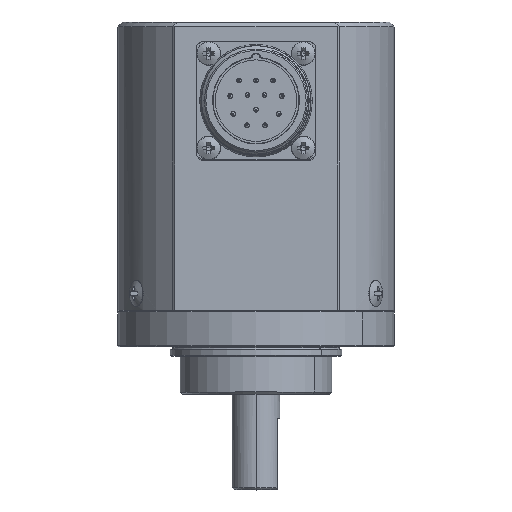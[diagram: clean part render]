
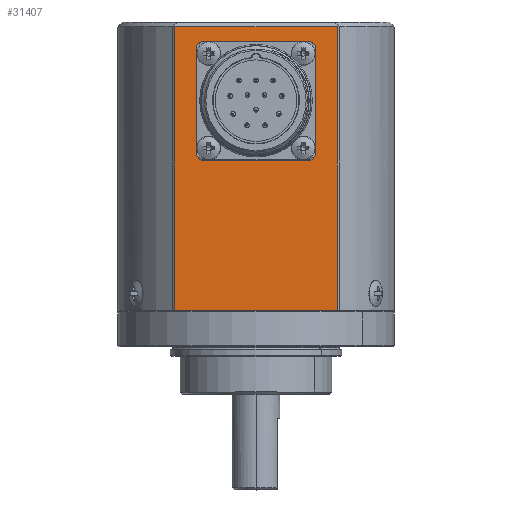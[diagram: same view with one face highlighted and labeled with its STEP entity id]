
A CAD part, top view. The second image highlights one B-rep face of the part: STEP entity #31407.
In plain terms, the highlighted planar face has unit normal (0, 0, 1).
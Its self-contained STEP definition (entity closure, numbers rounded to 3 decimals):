
#126 = VERTEX_POINT ( 'NONE', #9088 ) ;
#660 = VERTEX_POINT ( 'NONE', #20117 ) ;
#4308 = EDGE_CURVE ( 'NONE', #32777, #660, #37528, .T. ) ;
#4770 = EDGE_CURVE ( 'NONE', #36034, #10123, #19191, .T. ) ;
#4811 = VECTOR ( 'NONE', #14649, 1000. ) ;
#5285 = DIRECTION ( 'NONE',  ( 1., 0., 0. ) ) ;
#5620 = CARTESIAN_POINT ( 'NONE',  ( -11.459, 39.1, 32. ) ) ;
#6011 = EDGE_CURVE ( 'NONE', #10584, #23390, #11494, .T. ) ;
#6250 = CARTESIAN_POINT ( 'NONE',  ( 12.4, 62.959, 32. ) ) ;
#6368 = VECTOR ( 'NONE', #19324, 1000. ) ;
#6473 = ORIENTED_EDGE ( 'NONE', *, *, #35060, .T. ) ;
#6692 = EDGE_CURVE ( 'NONE', #9476, #126, #14846, .T. ) ;
#6695 = CARTESIAN_POINT ( 'NONE',  ( 11.459, 39.1, 32. ) ) ;
#7102 = ORIENTED_EDGE ( 'NONE', *, *, #19804, .T. ) ;
#7328 = ORIENTED_EDGE ( 'NONE', *, *, #37574, .T. ) ;
#8011 = CARTESIAN_POINT ( 'NONE',  ( -17.5, 7.5, 32. ) ) ;
#9088 = CARTESIAN_POINT ( 'NONE',  ( 11.459, 39.1, 32. ) ) ;
#9476 = VERTEX_POINT ( 'NONE', #22164 ) ;
#9800 = LINE ( 'NONE', #6695, #27782 ) ;
#10123 = VERTEX_POINT ( 'NONE', #33485 ) ;
#10449 = DIRECTION ( 'NONE',  ( 0., 1., 0. ) ) ;
#10584 = VERTEX_POINT ( 'NONE', #37525 ) ;
#10851 = CARTESIAN_POINT ( 'NONE',  ( -12.4, 40.041, 32. ) ) ;
#11173 = VECTOR ( 'NONE', #22350, 1000. ) ;
#11291 = FACE_BOUND ( 'NONE', #27888, .T. ) ;
#11446 = VERTEX_POINT ( 'NONE', #34984 ) ;
#11494 = LINE ( 'NONE', #14787, #13983 ) ;
#11740 = LINE ( 'NONE', #31099, #19397 ) ;
#13983 = VECTOR ( 'NONE', #23710, 1000. ) ;
#14587 = FACE_OUTER_BOUND ( 'NONE', #21143, .T. ) ;
#14649 = DIRECTION ( 'NONE',  ( -0.707, -0.707, 0. ) ) ;
#14787 = CARTESIAN_POINT ( 'NONE',  ( 11.459, 63.9, 32. ) ) ;
#14846 = LINE ( 'NONE', #19942, #4811 ) ;
#15434 = DIRECTION ( 'NONE',  ( -0.707, 0.707, 0. ) ) ;
#16343 = VERTEX_POINT ( 'NONE', #25536 ) ;
#17226 = VECTOR ( 'NONE', #18179, 1000. ) ;
#17432 = ORIENTED_EDGE ( 'NONE', *, *, #4770, .T. ) ;
#18018 = DIRECTION ( 'NONE',  ( 0.707, 0.707, 0. ) ) ;
#18179 = DIRECTION ( 'NONE',  ( 0., 1., 0. ) ) ;
#18415 = LINE ( 'NONE', #28049, #24803 ) ;
#19191 = LINE ( 'NONE', #40791, #27120 ) ;
#19324 = DIRECTION ( 'NONE',  ( 0., -1., 0. ) ) ;
#19397 = VECTOR ( 'NONE', #40412, 1000. ) ;
#19804 = EDGE_CURVE ( 'NONE', #16343, #10584, #37215, .T. ) ;
#19942 = CARTESIAN_POINT ( 'NONE',  ( 12.4, 40.041, 32. ) ) ;
#20117 = CARTESIAN_POINT ( 'NONE',  ( 17., 67., 32. ) ) ;
#21143 = EDGE_LOOP ( 'NONE', ( #37172, #26217, #25001, #39138 ) ) ;
#22035 = EDGE_CURVE ( 'NONE', #126, #36034, #9800, .T. ) ;
#22164 = CARTESIAN_POINT ( 'NONE',  ( 12.4, 40.041, 32. ) ) ;
#22350 = DIRECTION ( 'NONE',  ( 1., 0., 0. ) ) ;
#23245 = EDGE_CURVE ( 'NONE', #11446, #32777, #23809, .T. ) ;
#23390 = VERTEX_POINT ( 'NONE', #27683 ) ;
#23679 = LINE ( 'NONE', #10851, #32544 ) ;
#23710 = DIRECTION ( 'NONE',  ( 0.707, -0.707, 0. ) ) ;
#23809 = LINE ( 'NONE', #33057, #31721 ) ;
#24803 = VECTOR ( 'NONE', #18018, 1000. ) ;
#24887 = DIRECTION ( 'NONE',  ( -1., 0., 0. ) ) ;
#25001 = ORIENTED_EDGE ( 'NONE', *, *, #4308, .T. ) ;
#25536 = CARTESIAN_POINT ( 'NONE',  ( -11.459, 63.9, 32. ) ) ;
#26217 = ORIENTED_EDGE ( 'NONE', *, *, #23245, .T. ) ;
#26592 = CARTESIAN_POINT ( 'NONE',  ( -12.4, 62.959, 32. ) ) ;
#27092 = VERTEX_POINT ( 'NONE', #26592 ) ;
#27120 = VECTOR ( 'NONE', #15434, 1000. ) ;
#27196 = DIRECTION ( 'NONE',  ( 0., 0., 1. ) ) ;
#27683 = CARTESIAN_POINT ( 'NONE',  ( 12.4, 62.959, 32. ) ) ;
#27782 = VECTOR ( 'NONE', #24887, 1000. ) ;
#27855 = CARTESIAN_POINT ( 'NONE',  ( 17., 7.6, 32. ) ) ;
#27888 = EDGE_LOOP ( 'NONE', ( #33520, #29997, #17432, #6473, #38419, #7102, #32882, #7328 ) ) ;
#28049 = CARTESIAN_POINT ( 'NONE',  ( -12.4, 62.959, 32. ) ) ;
#29468 = EDGE_CURVE ( 'NONE', #660, #34920, #11740, .T. ) ;
#29917 = CARTESIAN_POINT ( 'NONE',  ( -17., 67., 32. ) ) ;
#29997 = ORIENTED_EDGE ( 'NONE', *, *, #22035, .T. ) ;
#30043 = LINE ( 'NONE', #36490, #35623 ) ;
#31099 = CARTESIAN_POINT ( 'NONE',  ( -17., 67., 32. ) ) ;
#31407 = ADVANCED_FACE ( 'NONE', ( #14587, #11291 ), #32960, .T. ) ;
#31721 = VECTOR ( 'NONE', #36405, 1000. ) ;
#32544 = VECTOR ( 'NONE', #10449, 1000. ) ;
#32705 = AXIS2_PLACEMENT_3D ( 'NONE', #8011, #27196, #5285 ) ;
#32777 = VERTEX_POINT ( 'NONE', #27855 ) ;
#32882 = ORIENTED_EDGE ( 'NONE', *, *, #6011, .T. ) ;
#32960 = PLANE ( 'NONE',  #32705 ) ;
#33057 = CARTESIAN_POINT ( 'NONE',  ( 17., 7.6, 32. ) ) ;
#33485 = CARTESIAN_POINT ( 'NONE',  ( -12.4, 40.041, 32. ) ) ;
#33520 = ORIENTED_EDGE ( 'NONE', *, *, #6692, .T. ) ;
#34217 = CARTESIAN_POINT ( 'NONE',  ( 17., 7.5, 32. ) ) ;
#34555 = LINE ( 'NONE', #6250, #6368 ) ;
#34920 = VERTEX_POINT ( 'NONE', #29917 ) ;
#34984 = CARTESIAN_POINT ( 'NONE',  ( -17., 7.6, 32. ) ) ;
#35060 = EDGE_CURVE ( 'NONE', #10123, #27092, #23679, .T. ) ;
#35623 = VECTOR ( 'NONE', #39569, 1000. ) ;
#36034 = VERTEX_POINT ( 'NONE', #5620 ) ;
#36405 = DIRECTION ( 'NONE',  ( 1., 0., 0. ) ) ;
#36490 = CARTESIAN_POINT ( 'NONE',  ( -17., 7.5, 32. ) ) ;
#36900 = EDGE_CURVE ( 'NONE', #27092, #16343, #18415, .T. ) ;
#37172 = ORIENTED_EDGE ( 'NONE', *, *, #40479, .T. ) ;
#37215 = LINE ( 'NONE', #38024, #11173 ) ;
#37525 = CARTESIAN_POINT ( 'NONE',  ( 11.459, 63.9, 32. ) ) ;
#37528 = LINE ( 'NONE', #34217, #17226 ) ;
#37574 = EDGE_CURVE ( 'NONE', #23390, #9476, #34555, .T. ) ;
#38024 = CARTESIAN_POINT ( 'NONE',  ( -11.459, 63.9, 32. ) ) ;
#38419 = ORIENTED_EDGE ( 'NONE', *, *, #36900, .T. ) ;
#39138 = ORIENTED_EDGE ( 'NONE', *, *, #29468, .T. ) ;
#39569 = DIRECTION ( 'NONE',  ( 0., -1., 0. ) ) ;
#40412 = DIRECTION ( 'NONE',  ( -1., 0., 0. ) ) ;
#40479 = EDGE_CURVE ( 'NONE', #34920, #11446, #30043, .T. ) ;
#40791 = CARTESIAN_POINT ( 'NONE',  ( -11.459, 39.1, 32. ) ) ;
